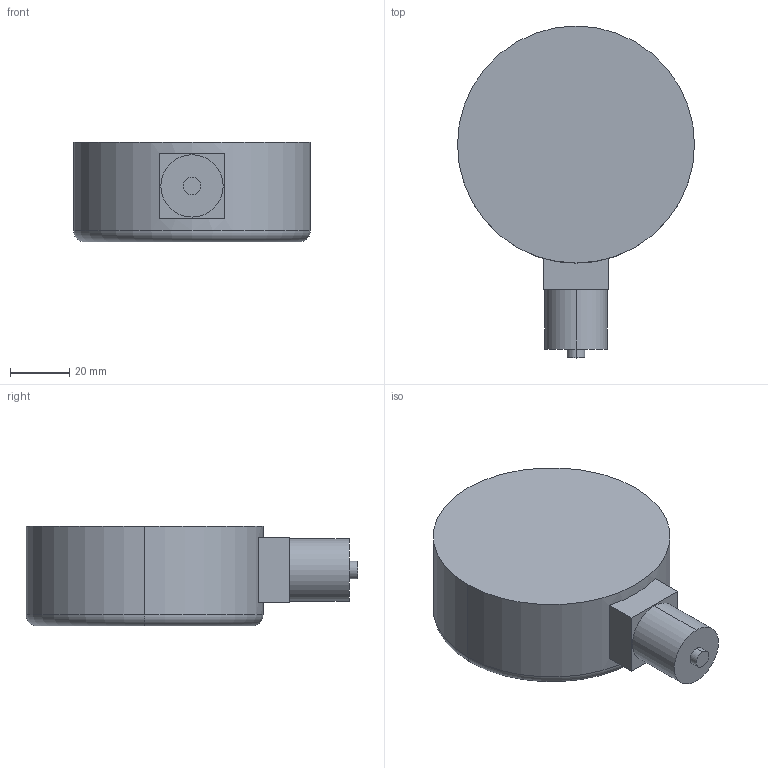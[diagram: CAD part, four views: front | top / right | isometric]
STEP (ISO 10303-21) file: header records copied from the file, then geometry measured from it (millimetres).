
FILE_DESCRIPTION (( 'STEP AP214' ), '1' );
FILE_NAME ('Manometr_puszkowy_x_0_3D_AFRISO.STEP', '2022-12-14T12:30:08', ( '' ), ( '' ), 'SwSTEP 2.0', 'SolidWorks 2022', '' );
FILE_SCHEMA (( 'AUTOMOTIVE_DESIGN' ));
Length unit declared in the file: millimetre
Products named in the file (1): Manometr_puszkowy_x_0_3D_AFRISO
Bounding box: 80 x 112 x 33.7 mm (x, y, z)
Volume: 180247.3 mm3; surface area: 20358.5 mm2
Topology: 1 solids, 1 shells, 17 faces, 34 edges, 22 vertices
Faces by surface type: plane 9, cylinder 6, torus 2
Entity records: 484 total; most frequent: DIRECTION 88, CARTESIAN_POINT 74, ORIENTED_EDGE 68, AXIS2_PLACEMENT_3D 36, EDGE_CURVE 34, VERTEX_POINT 22, EDGE_LOOP 20, CIRCLE 18
